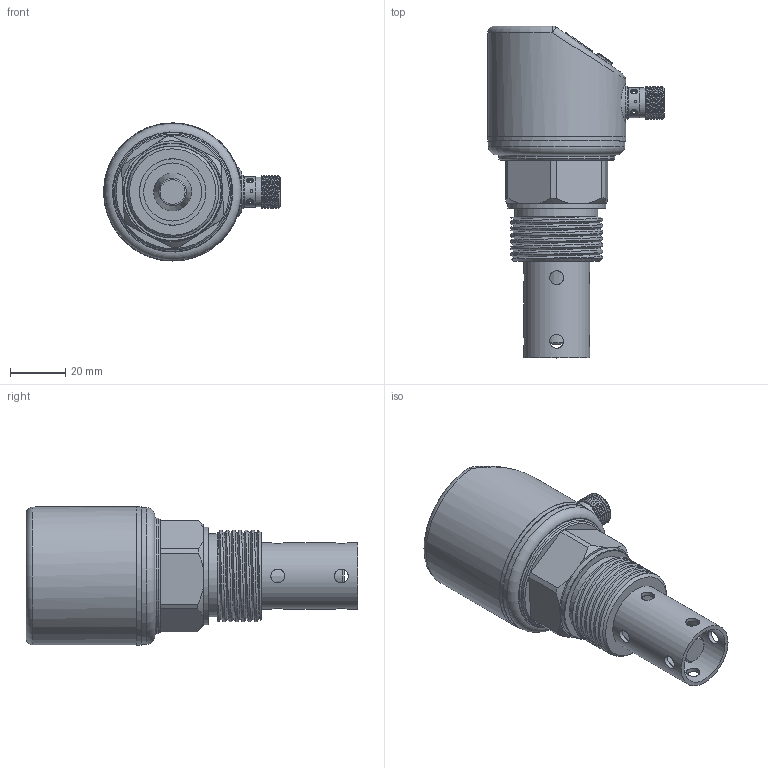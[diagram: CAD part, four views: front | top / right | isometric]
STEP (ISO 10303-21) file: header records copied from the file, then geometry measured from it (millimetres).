
FILE_DESCRIPTION (( 'STEP AP214' ), '1' );
FILE_NAME ('G1数显电容-30（同轴）.STEP', '2025-03-11T06:29:53', ( '' ), ( '' ), 'SwSTEP 2.0', 'SolidWorks 2020', '' );
FILE_SCHEMA (( 'AUTOMOTIVE_DESIGN' ));
Length unit declared in the file: millimetre
Products named in the file (9): G1数显电容-30（同轴）; 滅阨諉芛褲极1; 揤薯珆尨欶; G1̽ͷ; 揤薯奻裔; 抻芛ㄗ蟀哿講ㄘ; PVC躇猾菜; 偌瑩簽; 肮粣奪
Assembly tree (10 placements, depth 2):
  G1数显电容-30（同轴）
    揤薯奻裔
    揤薯珆尨欶
    滅阨諉芛褲极1
    偌瑩簽  x3
    PVC躇猾菜
    抻芛ㄗ蟀哿講ㄘ
    肮粣奪
    G1̽ͷ
Bounding box: 64 x 120.1 x 50 mm (x, y, z)
Volume: 54671.2 mm3; surface area: 40338.7 mm2
Topology: 10 solids, 10 shells, 321 faces, 759 edges, 491 vertices
Faces by surface type: plane 129, cylinder 118, cone 48, bspline 11, torus 11, sphere 4
Full cylindrical faces by diameter (mm): 1 x4, 1.2 x3, 1.8 x1, 2 x3, 2.5 x6, 2.8 x1, 4.3 x3, 4.5 x6, 5 x8, 6 x1, 7.2 x1, 8 x1, 8.5 x1, 9.75 x1, 10 x1, 10.49 x1, 10.5 x1, 10.8 x1, 10.9 x1, 11 x2, 12 x1, 21 x2, 24 x1, 30 x1, 35 x1, 35.5 x1, 42 x1, 43.9 x1, 45.4 x1, 45.6 x2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
Entity records: 13635 total; most frequent: CARTESIAN_POINT 6743, DIRECTION 1341, ORIENTED_EDGE 1134, EDGE_CURVE 567, AXIS2_PLACEMENT_3D 545, EDGE_LOOP 480, VERTEX_POINT 421, FACE_OUTER_BOUND 362
